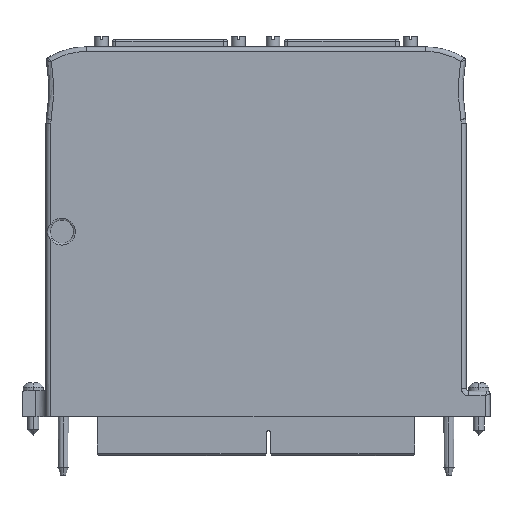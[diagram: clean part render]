
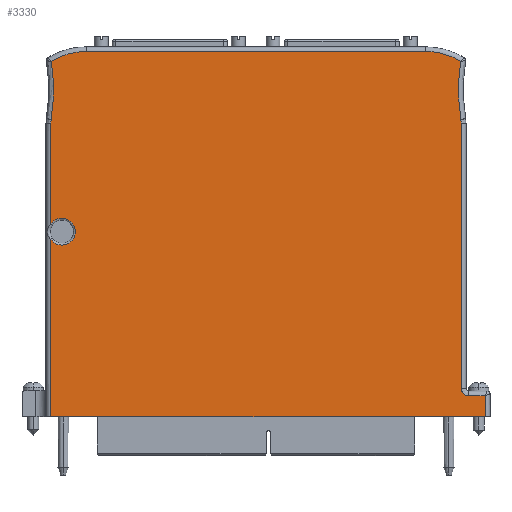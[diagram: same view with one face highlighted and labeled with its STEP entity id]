
A CAD part, left-side view. The second image highlights one B-rep face of the part: STEP entity #3330.
In plain terms, the highlighted planar face has unit normal (-1, 0, 0).
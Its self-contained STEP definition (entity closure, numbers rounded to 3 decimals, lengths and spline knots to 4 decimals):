
#1=DIRECTION('',(0.,0.,-1.));
#2=VECTOR('',#1,1.095);
#3=CARTESIAN_POINT('',(-0.394,2.2204,3.1754));
#4=LINE('',#3,#2);
#5=CARTESIAN_POINT('',(-0.394,2.2173,3.2148));
#6=CARTESIAN_POINT('',(-0.394,2.2184,3.2083));
#7=CARTESIAN_POINT('',(-0.394,2.2199,3.1952));
#8=CARTESIAN_POINT('',(-0.394,2.2204,3.182));
#9=CARTESIAN_POINT('',(-0.394,2.2204,3.1754));
#11=CARTESIAN_POINT('',(-0.394,4.2413,3.5374));
#12=DIRECTION('',(1.,0.,0.));
#13=DIRECTION('',(0.,-0.989,0.15));
#14=AXIS2_PLACEMENT_3D('',#11,#12,#13);
#16=CARTESIAN_POINT('',(-0.394,1.837,3.2222));
#17=DIRECTION('',(-1.,0.,0.));
#18=DIRECTION('',(0.,0.,1.));
#19=AXIS2_PLACEMENT_3D('',#16,#17,#18);
#21=DIRECTION('',(0.,1.,0.));
#22=VECTOR('',#21,3.674);
#23=CARTESIAN_POINT('',(-0.394,-1.837,3.9504));
#24=LINE('',#23,#22);
#25=CARTESIAN_POINT('',(-0.394,-2.2149,3.8447));
#26=CARTESIAN_POINT('',(-0.394,-2.1865,3.862));
#27=CARTESIAN_POINT('',(-0.394,-2.1278,3.8923));
#28=CARTESIAN_POINT('',(-0.394,-2.0339,3.9257));
#29=CARTESIAN_POINT('',(-0.394,-1.9364,3.9459));
#30=CARTESIAN_POINT('',(-0.394,-1.8704,3.9504));
#31=CARTESIAN_POINT('',(-0.394,-1.837,3.9504));
#33=CARTESIAN_POINT('',(-0.394,-2.2173,3.2148));
#34=CARTESIAN_POINT('',(-0.394,-2.2062,3.2847));
#35=CARTESIAN_POINT('',(-0.394,-2.1912,3.4247));
#36=CARTESIAN_POINT('',(-0.394,-2.1905,3.6361));
#37=CARTESIAN_POINT('',(-0.394,-2.2044,3.7753));
#38=CARTESIAN_POINT('',(-0.394,-2.2149,3.8447));
#40=CARTESIAN_POINT('',(-0.394,-2.2204,3.1754));
#41=CARTESIAN_POINT('',(-0.394,-2.2204,3.182));
#42=CARTESIAN_POINT('',(-0.394,-2.2199,3.1952));
#43=CARTESIAN_POINT('',(-0.394,-2.2184,3.2083));
#44=CARTESIAN_POINT('',(-0.394,-2.2173,3.2148));
#46=DIRECTION('',(0.,0.,1.));
#47=VECTOR('',#46,2.87);
#48=CARTESIAN_POINT('',(-0.394,-2.2204,
0.3054));
#49=LINE('',#48,#47);
#50=CARTESIAN_POINT('',(-0.394,-2.3004,
0.2254));
#51=CARTESIAN_POINT('',(-0.394,-2.2933,
0.2254));
#52=CARTESIAN_POINT('',(-0.394,-2.2795,
0.2273));
#53=CARTESIAN_POINT('',(-0.394,-2.2599,
0.2354));
#54=CARTESIAN_POINT('',(-0.394,-2.2432,
0.2483));
#55=CARTESIAN_POINT('',(-0.394,-2.2303,
0.265));
#56=CARTESIAN_POINT('',(-0.394,-2.2223,
0.2845));
#57=CARTESIAN_POINT('',(-0.394,-2.2204,
0.2983));
#58=CARTESIAN_POINT('',(-0.394,-2.2204,
0.3054));
#60=DIRECTION('',(0.,1.,0.));
#61=VECTOR('',#60,0.18);
#62=CARTESIAN_POINT('',(-0.394,-2.4804,0.2254));
#63=LINE('',#62,#61);
#64=DIRECTION('',(0.,0.,1.));
#65=VECTOR('',#64,0.2304);
#66=CARTESIAN_POINT('',(-0.394,-2.4804,-0.005));
#67=LINE('',#66,#65);
#68=DIRECTION('',(0.,0.,-1.));
#69=VECTOR('',#68,1.9246);
#70=CARTESIAN_POINT('',(-0.394,2.2204,1.9196));
#71=LINE('',#70,#69);
#72=CARTESIAN_POINT('',(-0.394,2.1,2.));
#73=DIRECTION('',(1.,0.,0.));
#74=DIRECTION('',(0.,0.832,0.555));
#75=AXIS2_PLACEMENT_3D('',#72,#73,#74);
#117=CARTESIAN_POINT('',(-0.394,2.2204,1.9196));
#128=CARTESIAN_POINT('',(-0.394,2.2204,2.0804));
#164=DIRECTION('',(0.,-1.,0.));
#165=VECTOR('',#164,4.7009);
#166=CARTESIAN_POINT('',(-0.394,2.2204,-0.005));
#167=LINE('',#166,#165);
#2888=VERTEX_POINT('',#5);
#2889=VERTEX_POINT('',#9);
#2892=CARTESIAN_POINT('',(-0.394,2.2149,3.8447));
#2893=VERTEX_POINT('',#2892);
#2896=VERTEX_POINT('',#25);
#2897=VERTEX_POINT('',#31);
#2902=CARTESIAN_POINT('',(-0.394,1.837,3.9504));
#2903=VERTEX_POINT('',#2902);
#2908=VERTEX_POINT('',#50);
#2909=VERTEX_POINT('',#58);
#2912=CARTESIAN_POINT('',(-0.394,-2.2204,3.1754));
#2913=VERTEX_POINT('',#2912);
#2916=VERTEX_POINT('',#44);
#2922=CARTESIAN_POINT('',(-0.394,-2.4804,0.2254));
#2923=VERTEX_POINT('',#2922);
#2924=CARTESIAN_POINT('',(-0.394,-2.4804,-0.005));
#2925=VERTEX_POINT('',#2924);
#2972=VERTEX_POINT('',#117);
#2973=VERTEX_POINT('',#128);
#2977=CARTESIAN_POINT('',(-0.394,2.2204,-0.005));
#2978=VERTEX_POINT('',#2977);
#3293=CARTESIAN_POINT('',(-0.394,0.,0.));
#3294=DIRECTION('',(1.,0.,0.));
#3295=DIRECTION('',(0.,0.,-1.));
#3296=AXIS2_PLACEMENT_3D('',#3293,#3294,#3295);
#3297=PLANE('',#3296);
#3299=ORIENTED_EDGE('',*,*,#3298,.F.);
#3301=ORIENTED_EDGE('',*,*,#3300,.F.);
#3303=ORIENTED_EDGE('',*,*,#3302,.F.);
#3305=ORIENTED_EDGE('',*,*,#3304,.F.);
#3307=ORIENTED_EDGE('',*,*,#3306,.F.);
#3309=ORIENTED_EDGE('',*,*,#3308,.F.);
#3311=ORIENTED_EDGE('',*,*,#3310,.F.);
#3313=ORIENTED_EDGE('',*,*,#3312,.F.);
#3315=ORIENTED_EDGE('',*,*,#3314,.F.);
#3317=ORIENTED_EDGE('',*,*,#3316,.F.);
#3319=ORIENTED_EDGE('',*,*,#3318,.F.);
#3321=ORIENTED_EDGE('',*,*,#3320,.F.);
#3323=ORIENTED_EDGE('',*,*,#3322,.F.);
#3325=ORIENTED_EDGE('',*,*,#3324,.F.);
#3327=ORIENTED_EDGE('',*,*,#3326,.F.);
#3328=EDGE_LOOP('',(#3299,#3301,#3303,#3305,#3307,#3309,#3311,#3313,#3315,#3317,
#3319,#3321,#3323,#3325,#3327));
#3329=FACE_OUTER_BOUND('',#3328,.F.);
#3330=ADVANCED_FACE('',(#3329),#3297,.F.);
#10=B_SPLINE_CURVE_WITH_KNOTS('',3,(#5,#6,#7,#8,#9),.UNSPECIFIED.,.F.,.F.,(4,1,
4),(0.,0.5,1.),.UNSPECIFIED.);
#15=CIRCLE('',#14,2.0496);
#20=CIRCLE('',#19,0.7282);
#32=B_SPLINE_CURVE_WITH_KNOTS('',3,(#25,#26,#27,#28,#29,#30,#31),.UNSPECIFIED.,
.F.,.F.,(4,1,1,1,4),(0.,0.25,0.5,0.75,1.),.UNSPECIFIED.);
#39=B_SPLINE_CURVE_WITH_KNOTS('',3,(#33,#34,#35,#36,#37,#38),.UNSPECIFIED.,.F.,
.F.,(4,1,1,4),(0.,0.3333,0.6667,1.),.UNSPECIFIED.);
#45=B_SPLINE_CURVE_WITH_KNOTS('',3,(#40,#41,#42,#43,#44),.UNSPECIFIED.,.F.,.F.,(
4,1,4),(0.,0.5,1.),.UNSPECIFIED.);
#59=B_SPLINE_CURVE_WITH_KNOTS('',3,(#50,#51,#52,#53,#54,#55,#56,#57,#58),
.UNSPECIFIED.,.F.,.F.,(4,1,1,1,1,1,4),(0.,0.1667,0.3333,
0.5,0.6667,0.8333,1.),.UNSPECIFIED.);
#76=CIRCLE('',#75,0.1448);
#3298=EDGE_CURVE('',#2973,#2972,#76,.T.);
#3300=EDGE_CURVE('',#2889,#2973,#4,.T.);
#3302=EDGE_CURVE('',#2888,#2889,#10,.T.);
#3304=EDGE_CURVE('',#2893,#2888,#15,.T.);
#3306=EDGE_CURVE('',#2903,#2893,#20,.T.);
#3308=EDGE_CURVE('',#2897,#2903,#24,.T.);
#3310=EDGE_CURVE('',#2896,#2897,#32,.T.);
#3312=EDGE_CURVE('',#2916,#2896,#39,.T.);
#3314=EDGE_CURVE('',#2913,#2916,#45,.T.);
#3316=EDGE_CURVE('',#2909,#2913,#49,.T.);
#3318=EDGE_CURVE('',#2908,#2909,#59,.T.);
#3320=EDGE_CURVE('',#2923,#2908,#63,.T.);
#3322=EDGE_CURVE('',#2925,#2923,#67,.T.);
#3324=EDGE_CURVE('',#2978,#2925,#167,.T.);
#3326=EDGE_CURVE('',#2972,#2978,#71,.T.);
